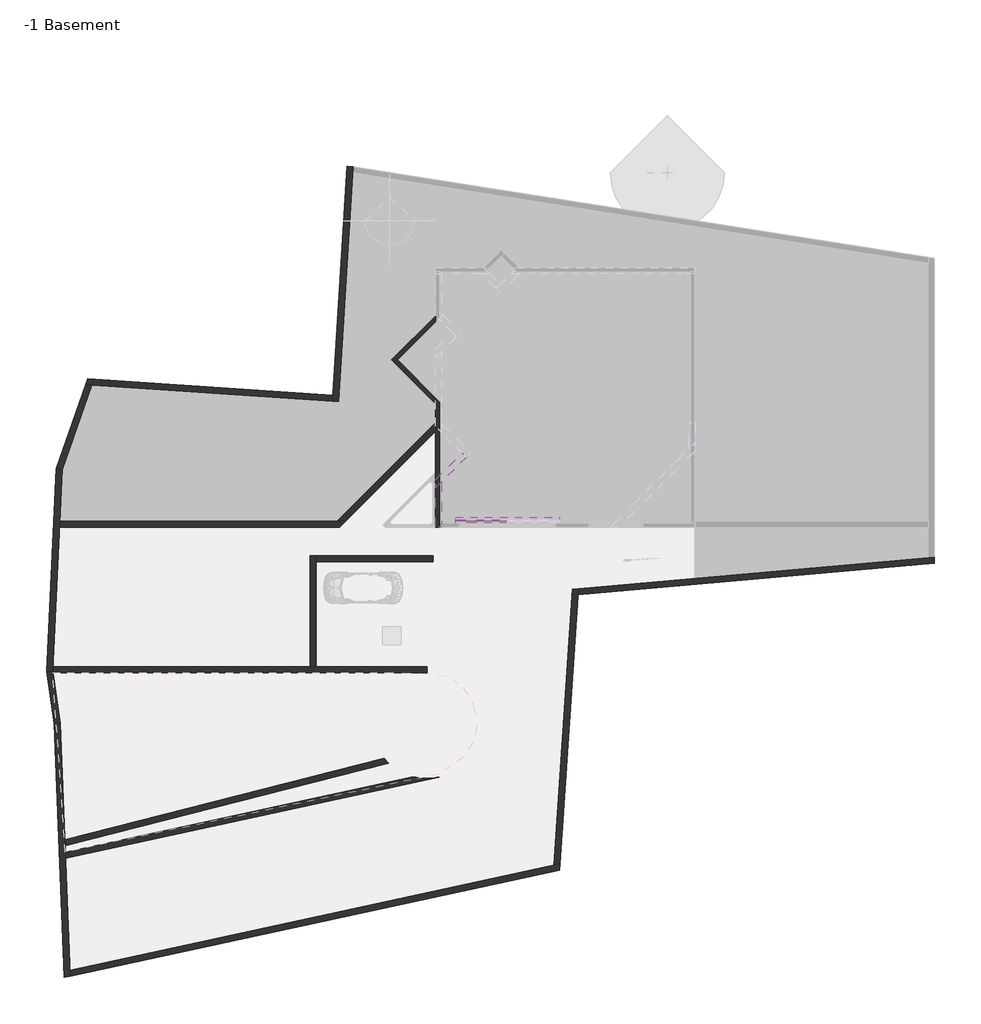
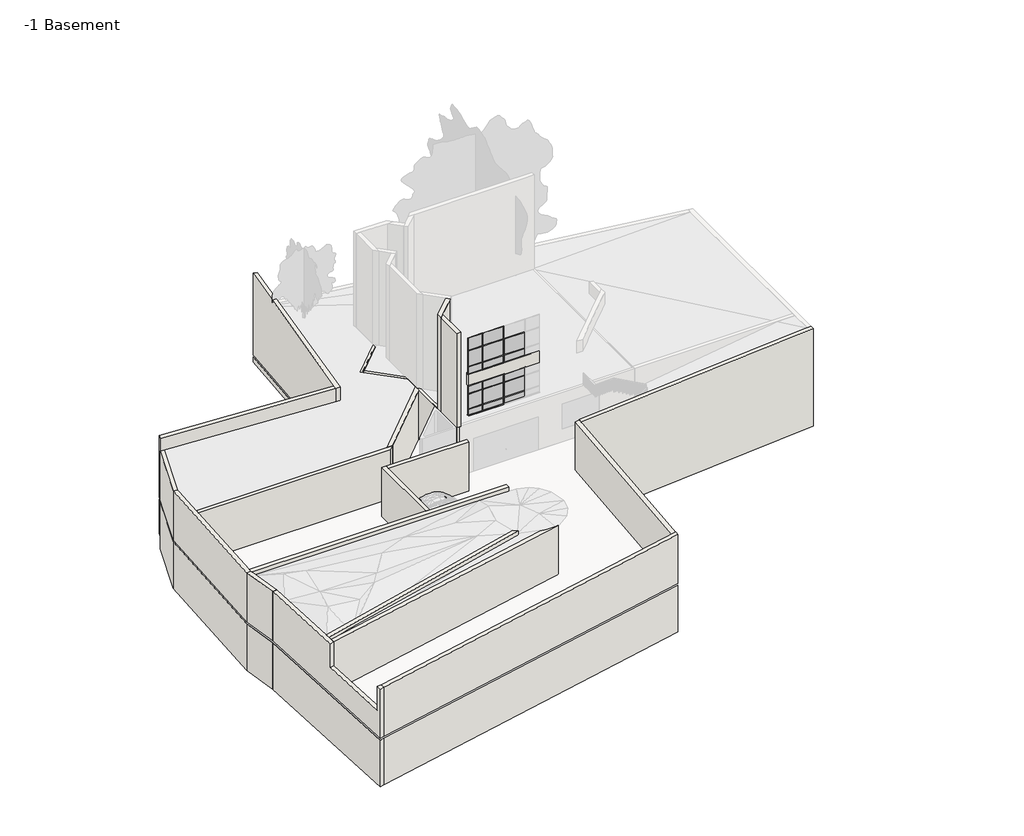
# One storey, part 1 of 2: 32 members, 22 walls, 18 plates.
"""IFC4 building model written with IfcOpenShell, lengths in millimetres."""

from ifc_helpers import new_model, si_unit, point, frame, frame_2d, origin, place, context, project, spatial, polyline, circle_curve, trimmed, segment, composite_curve, outline, extrude, faceted_brep, transform, mapped, element, save
from ifc_brep_helpers import plane_surface, revolved_surface, advanced_brep
from components import rectangular_mullion_30mm_square_58cf1550, rectangular_mullion_30mm_square_df6db07c, rectangular_mullion_30mm_square_fa95bdf8, rectangular_mullion_30mm_square_ba0c374f, rectangular_mullion_30mm_square_0362d8f6, rectangular_mullion_30mm_square_08ab3047, rectangular_mullion_30mm_square_6684157d, rectangular_mullion_30mm_square_f83bf9a0, rectangular_mullion_30mm_square_b668445a, rectangular_mullion_30mm_square_18d3f6a5, rectangular_mullion_30mm_square_0e867355, rectangular_mullion_30mm_square_db94e10f, rectangular_mullion_30mm_square_46f73a3d, rectangular_mullion_50_x_150mm_10bb7c7a, rectangular_mullion_50_x_150mm_cef6ab5d, system_panel_glazed_6d87a925, system_panel_glazed_2487e76f, system_panel_glazed_466595f5, system_panel_glazed_8358c7e7, system_panel_glazed_aaf3ec78, system_panel_glazed_bb9652dc, system_panel_glazed_b8eb6f75, system_panel_glazed_78962dc2, system_panel_glazed_890278ca, system_panel_glazed_fa1729a0, system_panel_glazed_85e1fe50, system_panel_glazed_5d21a3e7, system_panel_glazed_af77fa4d, system_panel_glazed_03078dcc, system_panel_glazed_2de029ef, system_panel_glazed_b8aaddad, system_panel_glazed_14a235fb, system_panel_glazed_96e6370a

model = new_model("IFC4")

# Units and contexts
model_context = context("Model", 3, world=origin())
ifc_project = project(units=[si_unit("LENGTHUNIT", "METRE", prefix="MILLI")], contexts=[model_context])

# Site, building, storey
site = spatial("IfcSite", under=ifc_project)
building = spatial("IfcBuilding", under=site)
storey = spatial("IfcBuildingStorey", under=building, Name="-1 Basement", Elevation=-3800.0)

# Members
placement = place(None, origin())
rectangular_mullion_30mm_square_shape = rectangular_mullion_30mm_square_58cf1550(model_context)
element("IfcMember", 1, ObjectType="Rectangular Mullion : 30mm Square", at=placement, inside=storey, context=model_context, shape_type="MappedRepresentation", body=[
    mapped(rectangular_mullion_30mm_square_shape, transform((1000.000082, 300.0, 5422.5), x_axis=(0.0, 0.0, 1.0), y_axis=(0.0, 1.0, 0.0), z_axis=(-1.0, 0.0, 0.0))),
])
element("IfcMember", 2, ObjectType="Rectangular Mullion : 30mm Square", at=placement, inside=storey, context=model_context, shape_type="MappedRepresentation", body=[
    mapped(rectangular_mullion_30mm_square_shape, transform((1000.000082, 300.0, 4175.0), x_axis=(0.0, 0.0, 1.0), y_axis=(0.0, 1.0, 0.0), z_axis=(-1.0, 0.0, 0.0))),
])
element("IfcMember", 3, ObjectType="Rectangular Mullion : 30mm Square", at=placement, inside=storey, context=model_context, shape_type="MappedRepresentation", body=[
    mapped(rectangular_mullion_30mm_square_shape, transform((1000.000082, 300.0, 900.0), x_axis=(0.0, 0.0, 1.0), y_axis=(0.0, 1.0, 0.0), z_axis=(-1.0, 0.0, 0.0))),
])
element("IfcMember", 4, ObjectType="Rectangular Mullion : 30mm Square", at=placement, inside=storey, context=model_context, shape_type="MappedRepresentation", body=[
    mapped(rectangular_mullion_30mm_square_shape, transform((1000.000082, 300.0, 2075.0), x_axis=(0.0, 0.0, 1.0), y_axis=(0.0, 1.0, 0.0), z_axis=(-1.0, 0.0, 0.0))),
])
rectangular_mullion_30mm_square_2_shape = rectangular_mullion_30mm_square_df6db07c(model_context)
element("IfcMember", 5, ObjectType="Rectangular Mullion : 30mm Square", at=placement, inside=storey, context=model_context, shape_type="MappedRepresentation", body=[
    mapped(rectangular_mullion_30mm_square_2_shape, transform((2040.000082, 300.0, 5422.5), x_axis=(0.0, 0.0, 1.0), y_axis=(0.0, 1.0, 0.0), z_axis=(-1.0, 0.0, 0.0))),
])
element("IfcMember", 6, ObjectType="Rectangular Mullion : 30mm Square", at=placement, inside=storey, context=model_context, shape_type="MappedRepresentation", body=[
    mapped(rectangular_mullion_30mm_square_2_shape, transform((2040.000082, 300.0, 4175.0), x_axis=(0.0, 0.0, 1.0), y_axis=(0.0, 1.0, 0.0), z_axis=(-1.0, 0.0, 0.0))),
])
element("IfcMember", 7, ObjectType="Rectangular Mullion : 30mm Square", at=placement, inside=storey, context=model_context, shape_type="MappedRepresentation", body=[
    mapped(rectangular_mullion_30mm_square_2_shape, transform((2040.000082, 300.0, 900.0), x_axis=(0.0, 0.0, 1.0), y_axis=(0.0, 1.0, 0.0), z_axis=(-1.0, 0.0, 0.0))),
])
element("IfcMember", 8, ObjectType="Rectangular Mullion : 30mm Square", at=placement, inside=storey, context=model_context, shape_type="MappedRepresentation", body=[
    mapped(rectangular_mullion_30mm_square_2_shape, transform((2040.000082, 300.0, 2075.0), x_axis=(0.0, 0.0, 1.0), y_axis=(0.0, 1.0, 0.0), z_axis=(-1.0, 0.0, 0.0))),
])
rectangular_mullion_30mm_square_3_shape = rectangular_mullion_30mm_square_fa95bdf8(model_context)
element("IfcMember", 9, ObjectType="Rectangular Mullion : 30mm Square", at=placement, inside=storey, context=model_context, shape_type="MappedRepresentation", body=[
    mapped(rectangular_mullion_30mm_square_3_shape, transform((3600.000082, 300.0, 900.0), x_axis=(0.0, 0.0, 1.0), y_axis=(0.0, 1.0, 0.0), z_axis=(-1.0, 0.0, 0.0))),
])
element("IfcMember", 10, ObjectType="Rectangular Mullion : 30mm Square", at=placement, inside=storey, context=model_context, shape_type="MappedRepresentation", body=[
    mapped(rectangular_mullion_30mm_square_3_shape, transform((3600.000082, 300.0, 2075.0), x_axis=(0.0, 0.0, 1.0), y_axis=(0.0, 1.0, 0.0), z_axis=(-1.0, 0.0, 0.0))),
])
rectangular_mullion_30mm_square_4_shape = rectangular_mullion_30mm_square_ba0c374f(model_context)
element("IfcMember", 11, ObjectType="Rectangular Mullion : 30mm Square", at=placement, inside=storey, context=model_context, shape_type="MappedRepresentation", body=[
    mapped(rectangular_mullion_30mm_square_4_shape, transform((3600.000082, 300.0, 5422.5), x_axis=(0.0, 0.0, 1.0), y_axis=(0.0, 1.0, 0.0), z_axis=(-1.0, 0.0, 0.0))),
])
element("IfcMember", 12, ObjectType="Rectangular Mullion : 30mm Square", at=placement, inside=storey, context=model_context, shape_type="MappedRepresentation", body=[
    mapped(rectangular_mullion_30mm_square_4_shape, transform((3600.000082, 300.0, 4175.0), x_axis=(0.0, 0.0, 1.0), y_axis=(0.0, 1.0, 0.0), z_axis=(-1.0, 0.0, 0.0))),
])
rectangular_mullion_30mm_square_5_shape = rectangular_mullion_30mm_square_0362d8f6(model_context)
element("IfcMember", 13, ObjectType="Rectangular Mullion : 30mm Square", at=placement, inside=storey, context=model_context, shape_type="MappedRepresentation", body=[
    mapped(rectangular_mullion_30mm_square_5_shape, transform((2040.000082, 300.0, 5447.5), x_axis=(-1.0, 0.0, 0.0), y_axis=(0.0, 1.0, 0.0), z_axis=(0.0, 0.0, -1.0))),
])
element("IfcMember", 14, ObjectType="Rectangular Mullion : 30mm Square", at=placement, inside=storey, context=model_context, shape_type="MappedRepresentation", body=[
    mapped(rectangular_mullion_30mm_square_5_shape, transform((3600.000082, 300.0, 5447.5), x_axis=(-1.0, 0.0, 0.0), y_axis=(0.0, 1.0, 0.0), z_axis=(0.0, 0.0, -1.0))),
])
rectangular_mullion_30mm_square_6_shape = rectangular_mullion_30mm_square_08ab3047(model_context)
element("IfcMember", 15, ObjectType="Rectangular Mullion : 30mm Square", at=placement, inside=storey, context=model_context, shape_type="MappedRepresentation", body=[
    mapped(rectangular_mullion_30mm_square_6_shape, transform((2040.000082, 300.0, 925.0), x_axis=(-1.0, 0.0, 0.0), y_axis=(0.0, 1.0, 0.0), z_axis=(0.0, 0.0, -1.0))),
])
element("IfcMember", 16, ObjectType="Rectangular Mullion : 30mm Square", at=placement, inside=storey, context=model_context, shape_type="MappedRepresentation", body=[
    mapped(rectangular_mullion_30mm_square_6_shape, transform((3600.000082, 300.0, 925.0), x_axis=(-1.0, 0.0, 0.0), y_axis=(0.0, 1.0, 0.0), z_axis=(0.0, 0.0, -1.0))),
])
rectangular_mullion_30mm_square_7_shape = rectangular_mullion_30mm_square_6684157d(model_context)
element("IfcMember", 17, ObjectType="Rectangular Mullion : 30mm Square", at=placement, inside=storey, context=model_context, shape_type="MappedRepresentation", body=[
    mapped(rectangular_mullion_30mm_square_7_shape, transform((2040.000082, 300.0, 4200.0), x_axis=(-1.0, 0.0, 0.0), y_axis=(0.0, 1.0, 0.0), z_axis=(0.0, 0.0, -1.0))),
])
element("IfcMember", 18, ObjectType="Rectangular Mullion : 30mm Square", at=placement, inside=storey, context=model_context, shape_type="MappedRepresentation", body=[
    mapped(rectangular_mullion_30mm_square_7_shape, transform((3600.000082, 300.0, 4200.0), x_axis=(-1.0, 0.0, 0.0), y_axis=(0.0, 1.0, 0.0), z_axis=(0.0, 0.0, -1.0))),
])
rectangular_mullion_30mm_square_8_shape = rectangular_mullion_30mm_square_f83bf9a0(model_context)
element("IfcMember", 19, ObjectType="Rectangular Mullion : 30mm Square", at=placement, inside=storey, context=model_context, shape_type="MappedRepresentation", body=[
    mapped(rectangular_mullion_30mm_square_8_shape, transform((2040.000082, 300.0, 450.0), x_axis=(-1.0, 0.0, 0.0), y_axis=(0.0, 1.0, 0.0), z_axis=(0.0, 0.0, -1.0))),
])
element("IfcMember", 20, ObjectType="Rectangular Mullion : 30mm Square", at=placement, inside=storey, context=model_context, shape_type="MappedRepresentation", body=[
    mapped(rectangular_mullion_30mm_square_8_shape, transform((3600.000082, 300.0, 450.0), x_axis=(-1.0, 0.0, 0.0), y_axis=(0.0, 1.0, 0.0), z_axis=(0.0, 0.0, -1.0))),
])
rectangular_mullion_30mm_square_9_shape = rectangular_mullion_30mm_square_b668445a(model_context)
element("IfcMember", 21, ObjectType="Rectangular Mullion : 30mm Square", at=placement, inside=storey, context=model_context, shape_type="MappedRepresentation", body=[
    mapped(rectangular_mullion_30mm_square_9_shape, transform((1000.000082, 300.0, 3600.0), x_axis=(0.0, 0.0, 1.0), y_axis=(0.0, 1.0, 0.0), z_axis=(-1.0, 0.0, 0.0))),
])
element("IfcMember", 22, ObjectType="Rectangular Mullion : 30mm Square", at=placement, inside=storey, context=model_context, shape_type="MappedRepresentation", body=[
    mapped(rectangular_mullion_30mm_square_9_shape, transform((1000.000082, 300.0, 2700.0), x_axis=(0.0, 0.0, 1.0), y_axis=(0.0, 1.0, 0.0), z_axis=(-1.0, 0.0, 0.0))),
])
rectangular_mullion_30mm_square_10_shape = rectangular_mullion_30mm_square_18d3f6a5(model_context)
element("IfcMember", 23, ObjectType="Rectangular Mullion : 30mm Square", at=placement, inside=storey, context=model_context, shape_type="MappedRepresentation", body=[
    mapped(rectangular_mullion_30mm_square_10_shape, transform((2040.000082, 300.0, 2100.0), x_axis=(-1.0, 0.0, 0.0), y_axis=(0.0, 1.0, 0.0), z_axis=(0.0, 0.0, -1.0))),
])
element("IfcMember", 24, ObjectType="Rectangular Mullion : 30mm Square", at=placement, inside=storey, context=model_context, shape_type="MappedRepresentation", body=[
    mapped(rectangular_mullion_30mm_square_10_shape, transform((3600.000082, 300.0, 2100.0), x_axis=(-1.0, 0.0, 0.0), y_axis=(0.0, 1.0, 0.0), z_axis=(0.0, 0.0, -1.0))),
])
rectangular_mullion_30mm_square_11_shape = rectangular_mullion_30mm_square_0e867355(model_context)
element("IfcMember", 25, ObjectType="Rectangular Mullion : 30mm Square", at=placement, inside=storey, context=model_context, shape_type="MappedRepresentation", body=[
    mapped(rectangular_mullion_30mm_square_11_shape, transform((2040.000082, 300.0, 3575.0), x_axis=(-1.0, 0.0, 0.0), y_axis=(0.0, 1.0, 0.0), z_axis=(0.0, 0.0, -1.0))),
])
element("IfcMember", 26, ObjectType="Rectangular Mullion : 30mm Square", at=placement, inside=storey, context=model_context, shape_type="MappedRepresentation", body=[
    mapped(rectangular_mullion_30mm_square_11_shape, transform((3600.000082, 300.0, 3575.0), x_axis=(-1.0, 0.0, 0.0), y_axis=(0.0, 1.0, 0.0), z_axis=(0.0, 0.0, -1.0))),
])
rectangular_mullion_30mm_square_12_shape = rectangular_mullion_30mm_square_db94e10f(model_context)
element("IfcMember", 27, ObjectType="Rectangular Mullion : 30mm Square", at=placement, inside=storey, context=model_context, shape_type="MappedRepresentation", body=[
    mapped(rectangular_mullion_30mm_square_12_shape, transform((2065.000082, 300.0, 3600.0), x_axis=(0.0, 0.0, 1.0), y_axis=(0.0, 1.0, 0.0), z_axis=(-1.0, 0.0, 0.0))),
])
element("IfcMember", 28, ObjectType="Rectangular Mullion : 30mm Square", at=placement, inside=storey, context=model_context, shape_type="MappedRepresentation", body=[
    mapped(rectangular_mullion_30mm_square_12_shape, transform((2065.000082, 300.0, 2700.0), x_axis=(0.0, 0.0, 1.0), y_axis=(0.0, 1.0, 0.0), z_axis=(-1.0, 0.0, 0.0))),
])
rectangular_mullion_30mm_square_13_shape = rectangular_mullion_30mm_square_46f73a3d(model_context)
element("IfcMember", 29, ObjectType="Rectangular Mullion : 30mm Square", at=placement, inside=storey, context=model_context, shape_type="MappedRepresentation", body=[
    mapped(rectangular_mullion_30mm_square_13_shape, transform((3625.000082, 300.0, 3600.0), x_axis=(0.0, 0.0, 1.0), y_axis=(0.0, 1.0, 0.0), z_axis=(-1.0, 0.0, 0.0))),
])
element("IfcMember", 30, ObjectType="Rectangular Mullion : 30mm Square", at=placement, inside=storey, context=model_context, shape_type="MappedRepresentation", body=[
    mapped(rectangular_mullion_30mm_square_13_shape, transform((3625.000082, 300.0, 2700.0), x_axis=(0.0, 0.0, 1.0), y_axis=(0.0, 1.0, 0.0), z_axis=(-1.0, 0.0, 0.0))),
])
rectangular_mullion_50_x_150mm_shape = rectangular_mullion_50_x_150mm_10bb7c7a(model_context)
element("IfcMember", 31, ObjectType="Rectangular Mullion : 50 x 150mm", at=placement, inside=storey, context=model_context, shape_type="MappedRepresentation", body=[
    mapped(rectangular_mullion_50_x_150mm_shape, transform((2040.000082, 300.0, 400.0), x_axis=(0.0, 0.0, -1.0), y_axis=(0.0, 1.0, 0.0), z_axis=(1.0, 0.0, 0.0))),
])
rectangular_mullion_50_x_150mm_2_shape = rectangular_mullion_50_x_150mm_cef6ab5d(model_context)
element("IfcMember", 32, ObjectType="Rectangular Mullion : 50 x 150mm", at=placement, inside=storey, context=model_context, shape_type="MappedRepresentation", body=[
    mapped(rectangular_mullion_50_x_150mm_2_shape, transform((3600.000082, 300.0, 400.0), x_axis=(0.0, 0.0, -1.0), y_axis=(0.0, 1.0, 0.0), z_axis=(1.0, 0.0, 0.0))),
])

# Plates
system_panel_glazed_shape = system_panel_glazed_6d87a925(model_context)
element("IfcPlate", 33, ObjectType="System Panel : Glazed", at=placement, inside=storey, context=model_context, shape_type="MappedRepresentation", body=[
    mapped(system_panel_glazed_shape, transform((1507.500082, 300.0, 450.0), x_axis=(-1.0, 0.0, 0.0), y_axis=(0.0, -1.0, 0.0), z_axis=(0.0, 0.0, 1.0))),
])
system_panel_glazed_2_shape = system_panel_glazed_2487e76f(model_context)
element("IfcPlate", 34, ObjectType="System Panel : Glazed", at=placement, inside=storey, context=model_context, shape_type="MappedRepresentation", body=[
    mapped(system_panel_glazed_2_shape, transform((1507.500082, 300.0, 925.0), x_axis=(-1.0, 0.0, 0.0), y_axis=(0.0, -1.0, 0.0), z_axis=(0.0, 0.0, 1.0))),
])
system_panel_glazed_3_shape = system_panel_glazed_466595f5(model_context)
element("IfcPlate", 35, ObjectType="System Panel : Glazed", at=placement, inside=storey, context=model_context, shape_type="MappedRepresentation", body=[
    mapped(system_panel_glazed_3_shape, transform((1507.500082, 300.0, 2100.0), x_axis=(-1.0, 0.0, 0.0), y_axis=(0.0, -1.0, 0.0), z_axis=(0.0, 0.0, 1.0))),
])
system_panel_glazed_4_shape = system_panel_glazed_8358c7e7(model_context)
element("IfcPlate", 36, ObjectType="System Panel : Glazed", at=placement, inside=storey, context=model_context, shape_type="MappedRepresentation", body=[
    mapped(system_panel_glazed_4_shape, transform((1507.500082, 300.0, 3625.0), x_axis=(-1.0, 0.0, 0.0), y_axis=(0.0, -1.0, 0.0), z_axis=(0.0, 0.0, 1.0))),
])
system_panel_glazed_5_shape = system_panel_glazed_aaf3ec78(model_context)
element("IfcPlate", 37, ObjectType="System Panel : Glazed", at=placement, inside=storey, context=model_context, shape_type="MappedRepresentation", body=[
    mapped(system_panel_glazed_5_shape, transform((1507.500082, 300.0, 4200.0), x_axis=(-1.0, 0.0, 0.0), y_axis=(0.0, -1.0, 0.0), z_axis=(0.0, 0.0, 1.0))),
])
system_panel_glazed_6_shape = system_panel_glazed_bb9652dc(model_context)
element("IfcPlate", 38, ObjectType="System Panel : Glazed", at=placement, inside=storey, context=model_context, shape_type="MappedRepresentation", body=[
    mapped(system_panel_glazed_6_shape, transform((1507.500082, 300.0, 5447.5), x_axis=(-1.0, 0.0, 0.0), y_axis=(0.0, -1.0, 0.0), z_axis=(0.0, 0.0, 1.0))),
])
system_panel_glazed_7_shape = system_panel_glazed_b8eb6f75(model_context)
element("IfcPlate", 39, ObjectType="System Panel : Glazed", at=placement, inside=storey, context=model_context, shape_type="MappedRepresentation", body=[
    mapped(system_panel_glazed_7_shape, transform((2820.000082, 300.0, 450.0), x_axis=(-1.0, 0.0, 0.0), y_axis=(0.0, -1.0, 0.0), z_axis=(0.0, 0.0, 1.0))),
])
system_panel_glazed_8_shape = system_panel_glazed_78962dc2(model_context)
element("IfcPlate", 40, ObjectType="System Panel : Glazed", at=placement, inside=storey, context=model_context, shape_type="MappedRepresentation", body=[
    mapped(system_panel_glazed_8_shape, transform((2820.000082, 300.0, 925.0), x_axis=(-1.0, 0.0, 0.0), y_axis=(0.0, -1.0, 0.0), z_axis=(0.0, 0.0, 1.0))),
])
system_panel_glazed_9_shape = system_panel_glazed_890278ca(model_context)
element("IfcPlate", 41, ObjectType="System Panel : Glazed", at=placement, inside=storey, context=model_context, shape_type="MappedRepresentation", body=[
    mapped(system_panel_glazed_9_shape, transform((2820.000082, 300.0, 2100.0), x_axis=(-1.0, 0.0, 0.0), y_axis=(0.0, -1.0, 0.0), z_axis=(0.0, 0.0, 1.0))),
])
system_panel_glazed_10_shape = system_panel_glazed_fa1729a0(model_context)
element("IfcPlate", 42, ObjectType="System Panel : Glazed", at=placement, inside=storey, context=model_context, shape_type="MappedRepresentation", body=[
    mapped(system_panel_glazed_10_shape, transform((2820.000082, 300.0, 3625.0), x_axis=(-1.0, 0.0, 0.0), y_axis=(0.0, -1.0, 0.0), z_axis=(0.0, 0.0, 1.0))),
])
system_panel_glazed_11_shape = system_panel_glazed_85e1fe50(model_context)
element("IfcPlate", 43, ObjectType="System Panel : Glazed", at=placement, inside=storey, context=model_context, shape_type="MappedRepresentation", body=[
    mapped(system_panel_glazed_11_shape, transform((2820.000082, 300.0, 4200.0), x_axis=(-1.0, 0.0, 0.0), y_axis=(0.0, -1.0, 0.0), z_axis=(0.0, 0.0, 1.0))),
])
system_panel_glazed_12_shape = system_panel_glazed_5d21a3e7(model_context)
element("IfcPlate", 44, ObjectType="System Panel : Glazed", at=placement, inside=storey, context=model_context, shape_type="MappedRepresentation", body=[
    mapped(system_panel_glazed_12_shape, transform((2820.000082, 300.0, 5447.5), x_axis=(-1.0, 0.0, 0.0), y_axis=(0.0, -1.0, 0.0), z_axis=(0.0, 0.0, 1.0))),
])
system_panel_glazed_13_shape = system_panel_glazed_af77fa4d(model_context)
element("IfcPlate", 45, ObjectType="System Panel : Glazed", at=placement, inside=storey, context=model_context, shape_type="MappedRepresentation", body=[
    mapped(system_panel_glazed_13_shape, transform((4370.000082, 300.0, 450.0), x_axis=(-1.0, 0.0, 0.0), y_axis=(0.0, -1.0, 0.0), z_axis=(0.0, 0.0, 1.0))),
])
system_panel_glazed_14_shape = system_panel_glazed_03078dcc(model_context)
element("IfcPlate", 46, ObjectType="System Panel : Glazed", at=placement, inside=storey, context=model_context, shape_type="MappedRepresentation", body=[
    mapped(system_panel_glazed_14_shape, transform((4370.000082, 300.0, 925.0), x_axis=(-1.0, 0.0, 0.0), y_axis=(0.0, -1.0, 0.0), z_axis=(0.0, 0.0, 1.0))),
])
system_panel_glazed_15_shape = system_panel_glazed_2de029ef(model_context)
element("IfcPlate", 47, ObjectType="System Panel : Glazed", at=placement, inside=storey, context=model_context, shape_type="MappedRepresentation", body=[
    mapped(system_panel_glazed_15_shape, transform((4370.000082, 300.0, 2100.0), x_axis=(-1.0, 0.0, 0.0), y_axis=(0.0, -1.0, 0.0), z_axis=(0.0, 0.0, 1.0))),
])
system_panel_glazed_16_shape = system_panel_glazed_b8aaddad(model_context)
element("IfcPlate", 48, ObjectType="System Panel : Glazed", at=placement, inside=storey, context=model_context, shape_type="MappedRepresentation", body=[
    mapped(system_panel_glazed_16_shape, transform((4370.000082, 300.0, 3625.0), x_axis=(-1.0, 0.0, 0.0), y_axis=(0.0, -1.0, 0.0), z_axis=(0.0, 0.0, 1.0))),
])
system_panel_glazed_17_shape = system_panel_glazed_14a235fb(model_context)
element("IfcPlate", 49, ObjectType="System Panel : Glazed", at=placement, inside=storey, context=model_context, shape_type="MappedRepresentation", body=[
    mapped(system_panel_glazed_17_shape, transform((4370.000082, 300.0, 4200.0), x_axis=(-1.0, 0.0, 0.0), y_axis=(0.0, -1.0, 0.0), z_axis=(0.0, 0.0, 1.0))),
])
system_panel_glazed_18_shape = system_panel_glazed_96e6370a(model_context)
element("IfcPlate", 50, ObjectType="System Panel : Glazed", at=placement, inside=storey, context=model_context, shape_type="MappedRepresentation", body=[
    mapped(system_panel_glazed_18_shape, transform((3600.000082, 300.0, 2725.0), x_axis=(-1.0, 0.0, 0.0), y_axis=(0.0, -1.0, 0.0), z_axis=(0.0, 0.0, 1.0))),
])

# Walls
element("IfcWall", 51, ObjectType="Generic - 200mm", at=placement, inside=storey, context=model_context, shape_type="Brep", body=[
    faceted_brep([(-0.0001061, 10571.6774773, -3800.0), (-2197.4135147, 8374.2640683, -3800.0), (-2197.4135147, 8374.2640683, 0.0), (-0.0001061, 10571.6774773, 0.0), (-0.0001061, 10288.8347648, -3800.0), (-0.0001061, 10288.8347648, 0.0), (-1914.5707988, 8374.2640717, 0.0), (-2055.992155, 8232.8427154, 0.0), (-2055.992155, 8232.8427154, -3800.0), (-1914.5707988, 8374.2640717, -3800.0)], [[[0, 1, 2, 3]], [[4, 5, 6, 7, 8, 9]], [[1, 0, 4, 9, 8]], [[3, 2, 7, 6, 5]], [[0, 3, 5, 4]], [[2, 1, 8, 7]]]),
])
element("IfcWall", 52, ObjectType="Generic - 200mm", at=placement, inside=storey, context=model_context, shape_type="Brep", body=[
    faceted_brep([(-2055.992155, 8232.8427154, -3800.0), (-0.0001061, 6176.8507655, -3800.0), (199.9998939, 5976.8507751, -3800.0), (199.9998939, 5976.8507751, 0.0), (-0.0001061, 6176.8507655, 0.0), (-2055.992155, 8232.8427154, 0.0), (-1914.5707988, 8374.2640717, -3800.0), (-1914.5707988, 8374.2640717, 0.0), (199.9998939, 6259.6934808, 0.0), (199.9998939, 6259.6934808, -3800.0)], [[[0, 1, 2, 3, 4, 5]], [[6, 7, 8, 9]], [[2, 1, 0, 6, 9]], [[5, 4, 3, 8, 7]], [[0, 5, 7, 6]], [[3, 2, 9, 8]]]),
])
element("IfcWall", 53, ObjectType="Generic - 200mm", at=placement, inside=storey, context=model_context, shape_type="Brep", body=[
    faceted_brep([(-0.0001061, 6176.8507655, -3800.0), (-0.0001061, 5232.5901808, -3800.0), (-0.0001061, 4808.3261121, -3800.0), (-0.0001061, -0.0001996, -3800.0), (-0.0001061, -0.0001996, 0.0), (-0.0001061, 4808.3261121, 0.0), (-0.0001061, 5232.5901808, 0.0), (-0.0001061, 6176.8507655, 0.0), (199.9998939, 5976.8507751, -3800.0), (199.9998939, 5976.8507751, 0.0), (199.9998939, 199.9998004, 0.0), (199.9998939, -0.0001996, 0.0), (199.9998939, -0.0001996, -3800.0), (199.9998939, 199.9998004, -3800.0)], [[[0, 1, 2, 3, 4, 5, 6, 7]], [[8, 9, 10, 11, 12, 13]], [[3, 2, 1, 0, 8, 13, 12]], [[7, 6, 5, 4, 11, 10, 9]], [[0, 7, 9, 8]], [[4, 3, 12, 11]]]),
])
element("IfcWall", 54, ObjectType="Generic - 200mm", at=placement, inside=storey, context=model_context, shape_type="SweptSolid", body=[
    extrude(outline(polyline([(1000.000082, 479.9997817), (6200.000082, 479.9997817), (6200.000082, 279.9997817), (1000.000082, 279.9997817), (1000.000082, 479.9997817)])), frame((0.0, 0.0, 2700.0), z_axis=(0.0, 0.0, 1.0), x_axis=(1.0, 0.0, 0.0)), (0.0, 0.0, 1.0), 900.0),
])
element("IfcWall", 55, ObjectType="Generic - 300mm", at=placement, inside=storey, context=model_context, shape_type="Brep", body=[
    faceted_brep([(1330.3656932, 3712.2748879, 0.0), (-0.0001061, 2381.9090886, 0.0), (-0.0001061, 2381.9090886, 7281.2615574), (1330.3656932, 3712.2748879, 7281.2615574), (1542.4977276, 3500.1428535, 0.0), (1542.4977276, 3500.1428535, 7281.2615574), (299.9998939, 2257.6450199, 7281.2615574), (-0.0001061, 1957.6450199, 7281.2615574), (-0.0001061, 1957.6450199, 0.0), (299.9998939, 2257.6450199, 0.0)], [[[0, 1, 2, 3]], [[4, 5, 6, 7, 8, 9]], [[1, 0, 4, 9, 8]], [[3, 2, 7, 6, 5]], [[0, 3, 5, 4]], [[2, 1, 8, 7]]]),
])
element("IfcWall", 56, ObjectType="Generic - 300mm", at=placement, inside=storey, context=model_context, shape_type="Brep", body=[
    faceted_brep([(-0.0001061, 1957.6450199, 0.0), (-0.0001061, -0.0002183, 0.0), (-0.0001061, -0.0002183, 7281.2615574), (-0.0001061, 1957.6450199, 7281.2615574), (299.9998939, 2257.6450199, 0.0), (299.9998939, 2257.6450199, 7281.2615574), (299.9998939, 299.9997817, 7281.2615574), (299.9998939, -0.0002183, 7281.2615574), (299.9998939, -0.0002183, 0.0), (299.9998939, 299.9997817, 0.0)], [[[0, 1, 2, 3]], [[4, 5, 6, 7, 8, 9]], [[1, 0, 4, 9, 8]], [[3, 2, 7, 6, 5]], [[0, 3, 5, 4]], [[2, 1, 8, 7]]]),
])
element("IfcWall", 57, ObjectType="Generic - 300mm", at=placement, inside=storey, context=model_context, shape_type="Brep", body=[
    faceted_brep([(-4874.7149452, 6292.0078471, -4363.0536853), (-4130.9873004, 18046.6994825, -4363.0536853), (-4130.9873004, 18046.6994825, -3950.0), (-4874.7149452, 6292.0078471, -3950.0), (-4428.6266418, 18093.4910601, -4363.0536853), (-5174.063407, 6311.7866008, -4363.0536853), (-5174.063407, 6311.7866008, -3950.0), (-5155.1200003, 6611.1890859, -3950.0), (-4428.6266418, 18093.4910601, -3950.0)], [[[0, 1, 2, 3]], [[4, 5, 6, 7, 8]], [[5, 0, 3, 6]], [[1, 4, 8, 2]], [[1, 0, 5, 4]], [[3, 2, 8, 7, 6]]]),
    faceted_brep([(-4130.9873004, 18046.6994825, 2500.0), (-4874.7149452, 6292.0078471, 1017.3453094), (-4874.7149452, 6292.0078471, -3800.0), (-4150.0124004, 17746.0058263, -3800.0), (-4130.9873004, 18046.6994825, -3800.0), (-4130.9873004, 18046.6994825, 0.0), (-5174.063407, 6311.7866008, 1017.4506835), (-4428.6266418, 18093.4910601, 2503.512583), (-4428.6266418, 18093.4910601, -3800.0), (-5155.1200003, 6611.1890859, -3800.0), (-5174.063407, 6311.7866008, -3800.0), (-5174.063407, 6311.7866008, 1000.0)], [[[0, 1, 2, 3, 4, 5]], [[6, 7, 8, 9, 10, 11]], [[1, 6, 11, 10, 2]], [[7, 0, 5, 4, 8]], [[1, 0, 7, 6]], [[4, 3, 2, 10, 9, 8]]]),
])
element("IfcWall", 58, ObjectType="Generic - 300mm", at=placement, inside=storey, context=model_context, shape_type="Brep", body=[
    faceted_brep([(-5174.063407, 6311.7866008, 1000.0), (-17546.8879496, 7129.2922207, 1000.0), (-17546.8879496, 7129.2922207, 0.0), (-17546.8879496, 7129.2922207, -3800.0), (-5174.063407, 6311.7866008, -3800.0), (-17443.8431327, 7423.1379006, 1000.0), (-5155.1200003, 6611.1890859, 1000.0), (-5155.1200003, 6611.1890859, -3800.0), (-17443.8431327, 7423.1379006, -3800.0)], [[[0, 1, 2, 3, 4]], [[5, 6, 7, 8]], [[6, 0, 4, 7]], [[1, 5, 8, 3, 2]], [[1, 0, 6, 5]], [[4, 3, 8, 7]]]),
    faceted_brep([(-17546.8879496, 7129.2922207, -6579.7857268), (-5174.063407, 6311.7866008, -5280.3830172), (-5174.063407, 6311.7866008, -4363.0536853), (-5174.063407, 6311.7866008, -3950.0), (-17546.8879496, 7129.2922207, -3950.0), (-5155.1200003, 6611.1890859, -5280.4707378), (-17443.8431327, 7423.1379006, -6571.0410584), (-17443.8431327, 7423.1379006, -3950.0), (-5155.1200003, 6611.1890859, -3950.0)], [[[0, 1, 2, 3, 4]], [[5, 6, 7, 8]], [[1, 5, 8, 3, 2]], [[6, 0, 4, 7]], [[1, 0, 6, 5]], [[4, 3, 8, 7]]]),
])
element("IfcWall", 59, ObjectType="Generic - 300mm", at=placement, inside=storey, context=model_context, shape_type="Brep", body=[
    faceted_brep([(-18722.4830963, 2870.3642585, -7544.2991913), (-17236.1757773, 7108.7626362, -7544.2991913), (-17236.1757773, 7108.7626362, -3950.0), (-18722.4830963, 2870.3642585, -3950.0), (-17546.8879496, 7129.2922207, -7544.2991913), (-19020.0367338, 2928.4171143, -7544.2991913), (-19020.0367338, 2928.4171143, -3950.0), (-17546.8879496, 7129.2922207, -3950.0), (-17546.8879496, 7129.2922207, -6579.7857268)], [[[0, 1, 2, 3]], [[4, 5, 6, 7, 8]], [[1, 0, 5, 4]], [[1, 4, 8, 7, 2]], [[5, 0, 3, 6]], [[3, 2, 7, 6]]]),
    faceted_brep([(-17236.1757773, 7108.7626362, 0.0), (-18722.4830963, 2870.3642585, 0.0), (-18722.4830963, 2870.3642585, -3800.0), (-17236.1757773, 7108.7626362, -3800.0), (-19020.0367338, 2928.4171143, 0.0), (-17546.8879496, 7129.2922207, 0.0), (-17546.8879496, 7129.2922207, -3800.0), (-19020.0367338, 2928.4171143, -3800.0)], [[[0, 1, 2, 3]], [[4, 5, 6, 7]], [[1, 0, 5, 4]], [[5, 0, 3, 6]], [[1, 4, 7, 2]], [[3, 2, 7, 6]]]),
])
element("IfcWall", 60, ObjectType="Generic - 300mm", at=placement, inside=storey, context=model_context, shape_type="Brep", body=[
    faceted_brep([(-19207.7218273, -7213.6217311, -7544.2991913), (-18722.4830963, 2870.3642585, -7544.2991913), (-18722.4830963, 2870.3642585, -3950.0), (-19207.7218273, -7213.6217311, -3950.0), (-19020.0367338, 2928.4171143, -7544.2991913), (-19508.7912641, -7228.6324394, -7544.2991913), (-19508.7912641, -7228.6324394, -3950.0), (-19020.0367338, 2928.4171143, -3950.0)], [[[0, 1, 2, 3]], [[4, 5, 6, 7]], [[1, 0, 5, 4]], [[1, 4, 7, 2]], [[5, 0, 3, 6]], [[3, 2, 7, 6]]]),
    faceted_brep([(-18722.4830963, 2870.3642585, 0.0), (-18846.1683426, 300.0, 0.0), (-18860.604263, 0.0, 0.0), (-19197.4424063, -7000.0, 0.0), (-19207.7218273, -7213.6217311, 0.0), (-19207.7218273, -7213.6217311, -3800.0), (-19197.4424063, -7000.0, -3800.0), (-18860.604263, 0.0, -3800.0), (-18846.1683426, 300.0, -3800.0), (-18722.4830963, 2870.3642585, -3800.0), (-19508.7912641, -7228.6324394, 0.0), (-19020.0367338, 2928.4171143, 0.0), (-19020.0367338, 2928.4171143, -3800.0), (-19508.7912641, -7228.6324394, -3800.0)], [[[0, 1, 2, 3, 4, 5, 6, 7, 8, 9]], [[10, 11, 12, 13]], [[4, 3, 2, 1, 0, 11, 10]], [[11, 0, 9, 12]], [[4, 10, 13, 5]], [[9, 8, 7, 6, 5, 13, 12]]]),
])
element("IfcWall", 61, ObjectType="Generic - 300mm", at=placement, inside=storey, context=model_context, shape_type="Brep", body=[
    faceted_brep([(-18819.1306681, -9825.1229167, -7544.2991913), (-19207.7218273, -7213.6217311, -7544.2991913), (-19207.7218273, -7213.6217311, -3950.0), (-18819.1306681, -9825.1229167, -3950.0), (-19508.7912641, -7228.6324394, -7544.2991913), (-19118.2456302, -9853.2685429, -7544.2991913), (-19118.2456302, -9853.2685429, -3950.0), (-19508.7912641, -7228.6324394, -3950.0)], [[[0, 1, 2, 3]], [[4, 5, 6, 7]], [[1, 0, 5, 4]], [[5, 0, 3, 6]], [[1, 4, 7, 2]], [[3, 2, 7, 6]]]),
    faceted_brep([(-19207.7218273, -7213.6217311, 0.0), (-19194.8687481, -7300.0, 0.0), (-18819.1306681, -9825.1229167, 0.0), (-18819.1306681, -9825.1229167, -3800.0), (-19194.8687481, -7300.0, -3800.0), (-19207.7218273, -7213.6217311, -3800.0), (-19118.2456302, -9853.2685429, 0.0), (-19508.7912641, -7228.6324394, 0.0), (-19508.7912641, -7228.6324394, -3800.0), (-19118.2456302, -9853.2685429, -3800.0)], [[[0, 1, 2, 3, 4, 5]], [[6, 7, 8, 9]], [[2, 1, 0, 7, 6]], [[2, 6, 9, 3]], [[7, 0, 5, 8]], [[5, 4, 3, 9, 8]]]),
])
element("IfcWall", 62, ObjectType="Generic - 300mm", at=placement, inside=storey, context=model_context, shape_type="Brep", body=[
    faceted_brep([(-19194.8687481, -7300.0, -3800.0), (-421.2384324, -7300.0, -3800.0), (-421.2384324, -7300.0, 0.0), (-19194.8687481, -7300.0, 0.0), (-19197.4424063, -7000.0, -3800.0), (-19197.4424063, -7000.0, 0.0), (-6300.0001061, -7000.0, 0.0), (-6000.0001061, -7000.0, 0.0), (-421.2384324, -7000.0, 0.0), (-421.2384324, -7000.0, -3800.0), (-6000.0001061, -7000.0, -3800.0), (-6300.0001061, -7000.0, -3800.0), (-19207.7218273, -7213.6217311, -3800.0), (-19207.7218273, -7213.6217311, 0.0)], [[[0, 1, 2, 3]], [[4, 5, 6, 7, 8, 9, 10, 11]], [[1, 0, 12, 4, 11, 10, 9]], [[2, 1, 9, 8]], [[3, 2, 8, 7, 6, 5, 13]], [[0, 3, 13, 12]], [[13, 5, 4, 12]]]),
])
element("IfcWall", 63, ObjectType="Generic - 300mm", at=placement, inside=storey, context=model_context, shape_type="Brep", body=[
    faceted_brep([(-18312.4744999, -22508.8514685, -7544.2991913), (-18819.1306681, -9825.1229167, -7544.2991913), (-18819.1306681, -9825.1229167, -3950.0), (-18312.4744999, -22508.8514685, -3950.0), (-19118.2456302, -9853.2685429, -7544.2991913), (-18610.1380323, -22573.3324667, -7544.2991913), (-18610.1380323, -22573.3324667, -3950.0), (-19118.2456302, -9853.2685429, -3950.0)], [[[0, 1, 2, 3]], [[4, 5, 6, 7]], [[1, 4, 7, 2]], [[5, 0, 3, 6]], [[1, 0, 5, 4]], [[3, 2, 7, 6]]]),
    faceted_brep([(-18819.1306681, -9825.1229167, 0.0), (-18585.3382736, -15677.9269593, 0.0), (-18573.0930813, -15984.4754717, 0.0), (-18560.9892082, -16287.4861733, 0.0), (-18548.8328419, -16591.8110004, 0.0), (-18548.8328419, -16591.8110004, -1831.2490685), (-18324.6308662, -22204.5266414, -1831.2490685), (-18324.6308662, -22204.5266414, 0.0), (-18312.4744999, -22508.8514685, 0.0), (-18312.4744999, -22508.8514685, -3800.0), (-18548.8328419, -16591.8110004, -3800.0), (-18560.9892082, -16287.4861733, -3800.0), (-18573.0930813, -15984.4754717, -3800.0), (-18585.3382736, -15677.9269593, -3800.0), (-18819.1306681, -9825.1229167, -3800.0), (-18846.4963743, -16656.2919986, 0.0), (-19118.2456302, -9853.2685429, 0.0), (-19118.2456302, -9853.2685429, -3800.0), (-18610.1380323, -22573.3324667, -3800.0), (-18610.1380323, -22573.3324667, 0.0), (-18624.3918074, -22216.5007016, 0.0), (-18624.3918074, -22216.5007016, -1831.2490685), (-18846.4963743, -16656.2919986, -1831.2490685)], [[[0, 1, 2, 3, 4, 5, 6, 7, 8, 9, 10, 11, 12, 13, 14]], [[15, 16, 17, 18, 19, 20, 21, 22]], [[16, 0, 14, 17]], [[8, 19, 18, 9]], [[4, 3, 2, 1, 0, 16, 15]], [[6, 5, 22, 21]], [[7, 6, 21, 20]], [[8, 7, 20, 19]], [[5, 4, 15, 22]], [[14, 13, 12, 11, 10, 9, 18, 17]]]),
])
element("IfcWall", 64, ObjectType="Generic - 300mm", at=placement, inside=storey, context=model_context, shape_type="Brep", body=[
    faceted_brep([(6241.8535177, -16882.8420465, -7547.1545166), (-18324.6308662, -22204.5266414, -7547.1545166), (-18324.6308662, -22204.5266414, -3950.0), (6241.8535177, -16882.8420465, -3950.0), (6241.8535177, -16882.8420465, -7493.7260805), (-18312.4744999, -22508.8514685, -7547.1545166), (6221.1350987, -17194.2883338, -7547.1545166), (6221.1350987, -17194.2883338, -3950.0), (-18312.4744999, -22508.8514685, -3950.0), (-18312.4744999, -22508.8514685, -7544.2991913)], [[[0, 1, 2, 3, 4]], [[5, 6, 7, 8, 9]], [[1, 5, 9, 8, 2]], [[6, 0, 4, 3, 7]], [[3, 2, 8, 7]], [[1, 0, 6, 5]]]),
    faceted_brep([(-18324.6308662, -22204.5266414, 0.0), (6241.8535177, -16882.8420465, 0.0), (6241.8535177, -16882.8420465, -48.7441831), (6241.8535177, -16882.8420465, -3800.0), (-18324.6308662, -22204.5266414, -3800.0), (6221.1350987, -17194.2883338, 0.0), (-18312.4744999, -22508.8514685, 0.0), (-18312.4744999, -22508.8514685, -3800.0), (6221.1350987, -17194.2883338, -3800.0)], [[[0, 1, 2, 3, 4]], [[5, 6, 7, 8]], [[6, 0, 4, 7]], [[1, 5, 8, 3, 2]], [[4, 3, 8, 7]], [[1, 0, 6, 5]]]),
])
element("IfcWall", 65, ObjectType="Generic - 300mm", at=placement, inside=storey, context=model_context, shape_type="Brep", body=[
    faceted_brep([(6856.1132204, -3129.4132653, -7493.7260805), (5936.7943891, -16948.9251066, -7493.7260805), (5936.7943891, -16948.9251066, -48.7441831), (6856.1132204, -3129.4132653, -48.7441831), (7158.5716891, -3102.4242039, -7493.7260805), (7158.5716891, -3102.4242039, -48.7441831), (6241.8535177, -16882.8420465, -48.7441831), (6241.8535177, -16882.8420465, -3800.0), (6241.8535177, -16882.8420465, -3950.0), (6241.8535177, -16882.8420465, -7493.7260805)], [[[0, 1, 2, 3]], [[4, 5, 6, 7, 8, 9]], [[2, 1, 9, 8, 7, 6]], [[0, 3, 5, 4]], [[1, 0, 4, 9]], [[3, 2, 6, 5]]]),
])
element("IfcWall", 66, ObjectType="Generic - 300mm", at=placement, inside=storey, context=model_context, shape_type="Brep", body=[
    faceted_brep([(24999.999894, -1510.3927312, -7512.6206632), (7158.5716891, -3102.4242039, -7512.6206632), (7158.5716891, -3102.4242039, -7493.7260805), (7158.5716891, -3102.4242039, -48.7441831), (7158.5716891, -3102.4242039, 0.0), (24699.999894, -1537.1624178, 0.0), (24999.999894, -1510.3927312, 0.0), (24999.999894, -1811.5847233, -7512.6206632), (24999.999894, -1811.5847233, 0.0), (7138.4157732, -3405.4147545, 0.0), (7138.4157732, -3405.4147545, -7512.6206632)], [[[0, 1, 2, 3, 4, 5, 6]], [[7, 8, 9, 10]], [[4, 3, 2, 1, 10, 9]], [[0, 6, 8, 7]], [[1, 0, 7, 10]], [[6, 5, 4, 9, 8]]]),
])
element("IfcWall", 67, ObjectType="Generic - 300mm", at=placement, inside=storey, context=model_context, shape_type="SweptSolid", body=[
    extrude(outline(composite_curve([segment(polyline([(-2350.5798849, -11829.1972697), (-18573.0930813, -15984.4754717), (-18585.3382736, -15677.9269593), (-2583.3411428, -11579.1323361)]), True, "CONTINUOUS"), segment(trimmed(circle_curve(frame_2d((-421.2384324, -9800.0)), 2800.0), [point((-2583.3411428, -11579.1323361))], [point((-2350.5798849, -11829.1972697))], True, "CARTESIAN"), True, "CONTINUOUS")], self_intersect=False)), frame((0.0, 0.0, -3800.0), z_axis=(0.0, 0.0, 1.0), x_axis=(1.0, 0.0, 0.0)), (0.0, 0.0, 1.0), 3800.0),
])
element("IfcWall", 68, ObjectType="Generic - 300mm", at=placement, inside=storey, context=model_context, shape_type="AdvancedBrep", body=[
    advanced_brep(
    [(-18548.8328419, -16591.8110004, -3800.0), (171.5588284, -12536.5290803, -3800.0), (171.5588284, -12536.5290803, 0.0), (-18548.8328419, -16591.8110004, 0.0), (-18548.8328419, -16591.8110004, -1831.2490685), (-18560.9892082, -16287.4861733, -3800.0), (-18560.9892082, -16287.4861733, 0.0), (-1124.3236907, -12510.289859, 0.0), (-1124.3236907, -12510.289859, -3800.0)],
    [
        (0, 1),
        (1, 2),
        (2, 3),
        (3, 4),
        (4, 0),
        (5, 6),
        (6, 7),
        (7, 8),
        (8, 5),
        (0, 5),
        (8, 1, circle_curve(frame((-421.2384324, -9800.0, -3800.0), z_axis=(0.0, 0.0, 1.0), x_axis=(1.0, 0.0, 0.0)), 2800.0)),
        (2, 7, circle_curve(frame((-421.2384324, -9800.0, 0.0), z_axis=(0.0, 0.0, -1.0), x_axis=(1.0, 0.0, 0.0)), 2800.0)),
        (6, 3),
    ],
    [
        plane_surface(frame((-18548.8328419, -16591.8110004, -3800.0), z_axis=(0.21171330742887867, -0.9773318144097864, 0.0), x_axis=(0.9773318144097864, 0.21171330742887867, 0.0))),
        plane_surface(frame((-18612.3468341, -16298.6114561, -3800.0), z_axis=(-0.21171330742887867, 0.9773318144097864, 0.0), x_axis=(-0.9773318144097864, -0.21171330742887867, 0.0))),
        plane_surface(frame((-18671.9857951, -16618.4888581, -3800.0), z_axis=(0.0, 0.0, -1.0000000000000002), x_axis=(-0.21171330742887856, 0.9773318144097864, 0.0))),
        plane_surface(frame((171.5588284, -12536.5290803, 0.0), z_axis=(0.0, 0.0, 1.0000000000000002), x_axis=(-0.21171330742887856, 0.9773318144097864, 0.0))),
        revolved_surface(polyline([(2378.7615676, -9800.0, 0.0), (2378.7615676, -9800.0, -3800.0)]), (-421.2384324, -9800.0, -3800.0), (0.0, 0.0, 1.0)),
        plane_surface(frame((-18818.484689, -9841.2944827, -7544.2991913), z_axis=(-0.999203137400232, -0.03991353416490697, 0.0), x_axis=(-0.03991353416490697, 0.999203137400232, 0.0))),
    ],
    [
        (0, [[1, 2, 3, 4, 5]]),
        (1, [[6, 7, 8, 9]]),
        (2, [[-1, 10, -9, 11]]),
        (3, [[-3, 12, -7, 13]]),
        (4, [[-2, -11, -8, -12]]),
        (5, [[-5, -4, -13, -6, -10]]),
    ],
),
])
element("IfcWall", 69, ObjectType="Generic - 300mm", at=placement, inside=storey, context=model_context, shape_type="Brep", body=[
    faceted_brep([(-18860.604263, 0.0, -3800.0), (-4808.3262181, 0.0, -3800.0), (-4808.3262181, 0.0, 0.0), (-18860.604263, 0.0, 0.0), (-18846.1683426, 300.0, -3800.0), (-18846.1683426, 300.0, 0.0), (-4932.5902868, 300.0, 0.0), (-4508.3262181, 300.0, 0.0), (-4508.3262181, 300.0, -3800.0), (-4932.5902868, 300.0, -3800.0)], [[[0, 1, 2, 3]], [[4, 5, 6, 7, 8, 9]], [[1, 0, 4, 9, 8]], [[3, 2, 7, 6, 5]], [[0, 3, 5, 4]], [[2, 1, 8, 7]]]),
])
element("IfcWall", 70, ObjectType="Generic - 300mm", at=placement, inside=storey, context=model_context, shape_type="SweptSolid", body=[
    extrude(outline(polyline([(-0.0001061, 4808.3261121), (-4508.3262181, 300.0), (-4932.5902868, 300.0), (-0.0001061, 5232.5901808), (-0.0001061, 4808.3261121)])), frame((0.0, 0.0, -3800.0), z_axis=(0.0, 0.0, 1.0), x_axis=(1.0, 0.0, 0.0)), (0.0, 0.0, 1.0), 3800.0),
])
element("IfcWall", 71, ObjectType="Generic - 300mm", at=placement, inside=storey, context=model_context, shape_type="Brep", body=[
    faceted_brep([(-6000.0001061, -7000.0, -3800.0), (-6000.0001061, -1750.0, -3800.0), (-6000.0001061, -1450.0, -3800.0), (-6000.0001061, -1450.0, 0.0), (-6000.0001061, -1750.0, 0.0), (-6000.0001061, -7000.0, 0.0), (-6300.0001061, -7000.0, -3800.0), (-6300.0001061, -7000.0, 0.0), (-6300.0001061, -1450.0, 0.0), (-6300.0001061, -1450.0, -3800.0)], [[[0, 1, 2, 3, 4, 5]], [[6, 7, 8, 9]], [[2, 1, 0, 6, 9]], [[5, 4, 3, 8, 7]], [[0, 5, 7, 6]], [[3, 2, 9, 8]]]),
])
element("IfcWall", 72, ObjectType="Generic - 300mm", at=placement, inside=storey, context=model_context, shape_type="SweptSolid", body=[
    extrude(outline(polyline([(-116.2951964, -1750.0), (-6000.0001061, -1750.0), (-6000.0001061, -1450.0), (-116.2951964, -1450.0), (-116.2951964, -1750.0)])), frame((0.0, 0.0, -3800.0), z_axis=(0.0, 0.0, 1.0), x_axis=(1.0, 0.0, 0.0)), (0.0, 0.0, 1.0), 3800.0),
])

save(model, "model.ifc")
